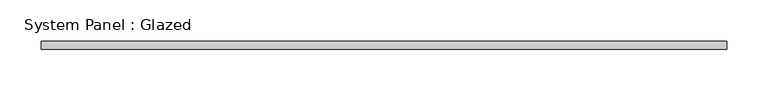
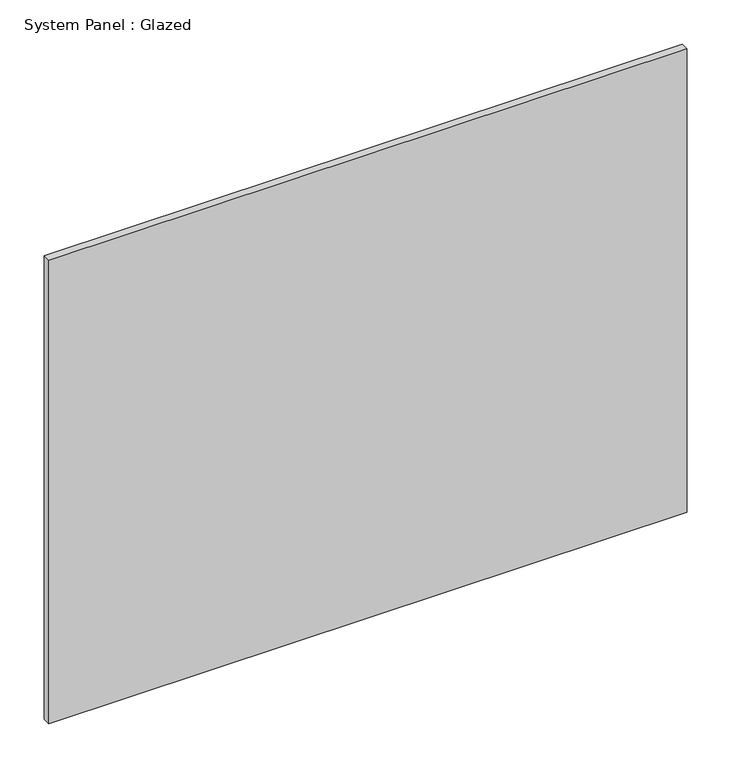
"""IFC4 building model written with IfcOpenShell, lengths in millimetres: plate geometry, System Panel : Glazed."""

import ifcopenshell
import ifcopenshell.guid

model = None  # the IFC model being written
_history = None  # IfcOwnerHistory: only IFC2X3 demands one
_inside = {}  # id of a spatial element -> (the spatial element, [elements in it])
_under = {}  # id of a project, library or spatial element -> (it, [spatial elements below it])
_declared = {}  # id of a project -> (the project, [libraries it declares])
_typed = {}  # id of a type object -> (the type object, [elements of that type])
_made_of = {}  # id of a material, layer set ... -> (it, [elements and type objects made of it])


def new_model(schema):
    """Start an empty IFC model of exactly this schema.

    Asked for "IFC4X3", IfcOpenShell would pick the latest addendum, in which some entities
    have other attributes; the version numbers below select the first issue.
    IFC2X3 requires an IfcOwnerHistory on every rooted entity: one is made here for all.
    """
    global model, _history
    if schema == "IFC4X3":
        model = ifcopenshell.file(schema_version=(4, 3, 0, 0))
    else:
        model = ifcopenshell.file(schema=schema)
    _inside.clear()
    _under.clear()
    _declared.clear()
    _typed.clear()
    _made_of.clear()
    _history = None
    if model.schema == "IFC2X3":
        org = make("IfcOrganization", Name="unknown")
        user = make(
            "IfcPersonAndOrganization",
            ThePerson=make("IfcPerson", FamilyName="unknown"),
            TheOrganization=org,
        )
        app = make(
            "IfcApplication",
            ApplicationDeveloper=org,
            Version="unknown",
            ApplicationFullName="unknown",
            ApplicationIdentifier="unknown",
        )
        _history = make(
            "IfcOwnerHistory",
            OwningUser=user,
            OwningApplication=app,
            ChangeAction="ADDED",
            CreationDate=0,
        )
    return model


def make(cls, **values):
    """One entity of the class cls with the attributes given. An attribute that is None is left unset."""
    return model.create_entity(
        cls, **{name: value for name, value in values.items() if value is not None}
    )


def rooted(cls, **values):
    """An entity with a GlobalId (a new one), such as an element, a storey or a relation."""
    return make(cls, GlobalId=ifcopenshell.guid.new(), OwnerHistory=_history, **values)


def si_unit(unit_type, name, prefix=None):
    """IfcSIUnit, for example si_unit("LENGTHUNIT", "METRE", prefix="MILLI")."""
    return make("IfcSIUnit", UnitType=unit_type, Prefix=prefix, Name=name)


def assignment(units):
    """IfcUnitAssignment: the units of a project."""
    return None if units is None else make("IfcUnitAssignment", Units=units)


def point(xyz):
    """IfcCartesianPoint."""
    return None if xyz is None else make("IfcCartesianPoint", Coordinates=xyz)


def direction(xyz):
    """IfcDirection."""
    return None if xyz is None else make("IfcDirection", DirectionRatios=xyz)


def frame(location, z_axis=None, x_axis=None):
    """IfcAxis2Placement3D, a coordinate frame: its origin and axes. An axis left out is left unset."""
    return make(
        "IfcAxis2Placement3D",
        Location=point(location),
        Axis=direction(z_axis),
        RefDirection=direction(x_axis),
    )


def origin():
    """The frame at (0, 0, 0) with its axes left unset."""
    return frame((0.0, 0.0, 0.0))


def origin_with_axes():
    """The frame at (0, 0, 0) with the z axis (0, 0, 1) and the x axis (1, 0, 0) written out."""
    return frame((0.0, 0.0, 0.0), z_axis=(0.0, 0.0, 1.0), x_axis=(1.0, 0.0, 0.0))


def place(relative_to, where):
    """IfcLocalPlacement: puts the frame where relative to a parent placement (None: the world)."""
    return make(
        "IfcLocalPlacement", PlacementRelTo=relative_to, RelativePlacement=where
    )


def context(
    kind, dimensions, precision=None, world=None, true_north=None, identifier=None
):
    """IfcGeometricRepresentationContext, for example the 3D "Model" context."""
    return make(
        "IfcGeometricRepresentationContext",
        ContextIdentifier=identifier,
        ContextType=kind,
        CoordinateSpaceDimension=dimensions,
        Precision=precision,
        WorldCoordinateSystem=world,
        TrueNorth=true_north,
    )


def project(units=None, contexts=None):
    """IfcProject with its units and contexts."""
    return rooted(
        "IfcProject",
        Name="project",
        RepresentationContexts=contexts,
        UnitsInContext=assignment(units),
    )


def spatial(cls, under=None, at=None, **own):
    """A site, building, storey or space (cls), placed at a placement, below another one or the project."""
    s = rooted(cls, ObjectPlacement=at, **own)
    if under is not None:
        _under.setdefault(under.id(), (under, []))[1].append(s)
    return s


def polyline(points):
    """IfcPolyline through the points."""
    return make("IfcPolyline", Points=[point(p) for p in points])


def outline(outer, holes=None, kind="AREA"):
    """IfcArbitraryClosedProfileDef: a profile drawn as a closed curve; with holes, ...WithVoids."""
    if holes is None:
        return make("IfcArbitraryClosedProfileDef", ProfileType=kind, OuterCurve=outer)
    return make(
        "IfcArbitraryProfileDefWithVoids",
        ProfileType=kind,
        OuterCurve=outer,
        InnerCurves=holes,
    )


def extrude(swept, where, along, depth):
    """IfcExtrudedAreaSolid: the profile swept, set in the frame where, extruded along a direction by depth."""
    return make(
        "IfcExtrudedAreaSolid",
        SweptArea=swept,
        Position=where,
        ExtrudedDirection=direction(along),
        Depth=depth,
    )


def shape(context_of_items, identifier, shape_type, items):
    """IfcShapeRepresentation: the items that make up one representation, for example the "Body"."""
    return make(
        "IfcShapeRepresentation",
        ContextOfItems=context_of_items,
        RepresentationIdentifier=identifier,
        RepresentationType=shape_type,
        Items=items,
    )


def source(mapping_origin, context_of_items, identifier, shape_type, items):
    """IfcRepresentationMap: a shape defined once, which mapped items show again and again."""
    return make(
        "IfcRepresentationMap",
        MappingOrigin=mapping_origin,
        MappedRepresentation=shape(context_of_items, identifier, shape_type, items),
    )


def transform(
    local_origin,
    x_axis=None,
    y_axis=None,
    z_axis=None,
    scale=None,
    scale2=None,
    scale3=None,
    uniform=True,
):
    """IfcCartesianTransformationOperator3D, or its non-uniform kind. x_axis, y_axis, z_axis: its Axis1, 2, 3."""
    if uniform:
        return make(
            "IfcCartesianTransformationOperator3D",
            Axis1=direction(x_axis),
            Axis2=direction(y_axis),
            LocalOrigin=point(local_origin),
            Scale=scale,
            Axis3=direction(z_axis),
        )
    return make(
        "IfcCartesianTransformationOperator3DnonUniform",
        Axis1=direction(x_axis),
        Axis2=direction(y_axis),
        LocalOrigin=point(local_origin),
        Scale=scale,
        Axis3=direction(z_axis),
        Scale2=scale2,
        Scale3=scale3,
    )


def mapped(mapping_source, mapping_target):
    """IfcMappedItem: shows the shape of a source again, moved by a transform."""
    return make(
        "IfcMappedItem", MappingSource=mapping_source, MappingTarget=mapping_target
    )


def made_of(thing, what):
    """Note that an element or type object is made of a material, layer set ...; save() writes the relation."""
    if what is not None:
        _made_of.setdefault(what.id(), (what, []))[1].append(thing)
    return thing


def element(
    cls,
    number,
    at=None,
    inside=None,
    cuts=None,
    type_object=None,
    material=None,
    context=None,
    identifier="Body",
    shape_type=None,
    held_by="IfcProductDefinitionShape",
    body=None,
    shapes=None,
    **own,
):
    """One element of the class cls, such as IfcWall. Its Tag is "e" and its number.

    at: its placement. inside: the storey or other place that contains it. cuts: it is an
    opening in that element (IfcRelVoidsElement). A single representation is given by context,
    identifier, shape_type and body (its items); several are given by shapes. held_by: the class
    of the entity that holds the representations. save() writes the other relations.
    """
    e = rooted(cls, Tag="e%d" % number, ObjectPlacement=at, **own)
    if body is not None:
        shapes = [shape(context, identifier, shape_type, body)]
    if shapes is not None:
        e.Representation = make(held_by, Representations=shapes)
    if inside is not None:
        _inside.setdefault(inside.id(), (inside, []))[1].append(e)
    if cuts is not None:
        rooted(
            "IfcRelVoidsElement", RelatingBuildingElement=cuts, RelatedOpeningElement=e
        )
    if type_object is not None:
        _typed.setdefault(type_object.id(), (type_object, []))[1].append(e)
    return made_of(e, material)


def aggregate(whole, parts):
    """IfcRelAggregates: a whole, such as a stair, and the parts it consists of."""
    return rooted("IfcRelAggregates", RelatingObject=whole, RelatedObjects=parts)


def save(model, path):
    """Write the relations noted so far, then the file.

    IfcRelAggregates (storeys below a building ...), IfcRelContainedInSpatialStructure (elements
    in a storey), IfcRelDefinesByType, IfcRelAssociatesMaterial and IfcRelDeclares: one each for
    every whole, place, type object, material and project.
    """
    for whole, parts in _under.values():
        aggregate(whole, parts)
    for where, things in _inside.values():
        rooted(
            "IfcRelContainedInSpatialStructure",
            RelatedElements=things,
            RelatingStructure=where,
        )
    for kind, things in _typed.values():
        rooted("IfcRelDefinesByType", RelatedObjects=things, RelatingType=kind)
    for what, things in _made_of.values():
        rooted("IfcRelAssociatesMaterial", RelatedObjects=things, RelatingMaterial=what)
    for by, libraries in _declared.values():
        rooted("IfcRelDeclares", RelatingContext=by, RelatedDefinitions=libraries)
    model.write(path)


def system_panel_glazed_a1e22965(model_context):
    return source(origin(), model_context, "Body", "SweptSolid", [
        extrude(outline(polyline([(416.6666667, -5.0), (-416.6666667, -5.0), (-416.6666667, 5.0), (416.6666667, 5.0), (416.6666667, -5.0)])), origin_with_axes(), (0.0, 0.0, 1.0), 640.0),
    ])


if __name__ == "__main__":
    model = new_model("IFC4")
    model_context = context("Model", 3, world=origin())
    ifc_project = project(units=[si_unit("LENGTHUNIT", "METRE", prefix="MILLI")], contexts=[model_context])
    site = spatial("IfcSite", under=ifc_project)
    building = spatial("IfcBuilding", under=site)
    placement = place(None, origin())
    system_panel_glazed_shape = system_panel_glazed_a1e22965(model_context)
    element("IfcPlate", 1, ObjectType="System Panel : Glazed", at=placement, inside=building, context=model_context, shape_type="MappedRepresentation", body=[
        mapped(system_panel_glazed_shape, transform((0.0, 0.0, 0.0), x_axis=(1.0, 0.0, 0.0), y_axis=(0.0, 1.0, 0.0), z_axis=(0.0, 0.0, 1.0))),
    ])
    save(model, "model.ifc")
